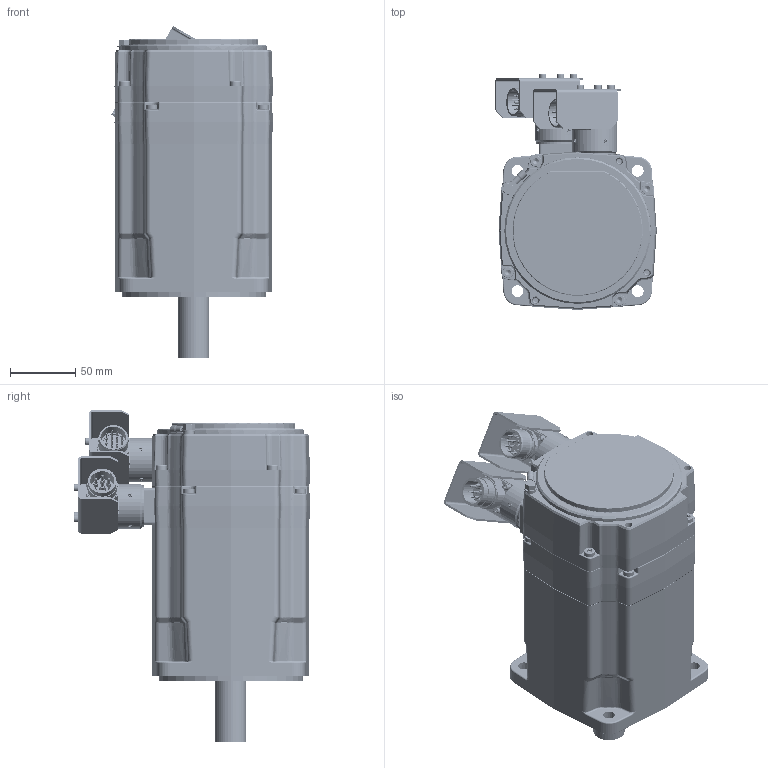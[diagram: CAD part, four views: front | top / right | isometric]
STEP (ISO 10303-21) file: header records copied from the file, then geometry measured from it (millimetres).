
FILE_DESCRIPTION((''),'2;1');
FILE_NAME('EY620EAR7010_ASM','2016-11-14T',('pf73167'),(''),'PRO/ENGINEER BY PARAMETRIC TECHNOLOGY CORPORATION, 2009400','PRO/ENGINEER BY PARAMETRIC TECHNOLOGY CORPORATION, 2009400','');
FILE_SCHEMA(('CONFIG_CONTROL_DESIGN'));
Length unit declared in the file: millimetre
Products named in the file (45): 344187P0020; 5116P1315; 301026P0030; 1150P0412; 344185P0001; 344186R0001_ASM; 5116P1319; 1645P0018; 1711P0019; 344229R2000_ASM; 344183P0006; 344184R2008_ASM; 1143P0515; 5320P0028; 5340P0002; 1613P0034; 1613P0035; 282280P0012; 220005P1002; 344509P0001; 1643P0104; 1143P0405; 344191P0021; 1143P0510; 1642P0105; 6620P0014; 1145P0508; 345359P0002; 5340P0124; 5340P0125; 1150P0204; 345359P0001; 1170P0042; 220132P1010_0001; 220132P1010_0002; 220132P0111; 220132P0120; 220132P1010_ASM; 345359P0003; 1150P0305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
Assembly tree (106 placements, depth 4):
  EY620EAR7010_ASM
    344187P0020
    5116P1315
    301026P0030
    1150P0412  x3
    344186R0001_ASM
      344185P0001
    5116P1319
    1645P0018  x2
    1711P0019
    344184R2008_ASM
      344229R2000_ASM
      344183P0006
    1143P0515  x4
    5320P0028
    5340P0002  x2
    1613P0034
    1613P0035
    282280P0012
    220005P1002
    344509P0001
    1643P0104  x3
    1143P0405  x3
    344191P0021
    1143P0510  x4
    1642P0105
    6620P0014
    1145P0508
    345359R1010_ASM
      345359P0002
      5340P0124
      5340P0125
      1150P0204  x8
      345359P0001
      1170P0042  x4
      220132P1010_ASM
        220132P1010_0001
        220132P1010_0002
        220132P0111  x4
        220132P0120  x3
      345359P0003
      1150P0305  x3
    345359R1020_ASM
      345359P0002
      5340P0124
      5340P0125
      1150P0204  x8
      345359P0001
      1170P0042  x4
      220132P1020
      220132P0112  x12
      345359P0003
      1150P0305  x3
Bounding box: 123.48 x 180.2 x 253.84 mm (x, y, z)
Volume: 1052695 mm3; surface area: 388680.6 mm2
Topology: 105 solids, 106 shells, 5493 faces, 12942 edges, 7871 vertices
Faces by surface type: plane 1984, cylinder 1612, cone 979, bspline 602, torus 285, sphere 31
Entity records: 140932 total; most frequent: CARTESIAN_POINT 51262, ORIENTED_EDGE 18984, DIRECTION 17660, EDGE_CURVE 9492, AXIS2_PLACEMENT_3D 6399, VERTEX_POINT 5928, VECTOR 4862, LINE 4862
